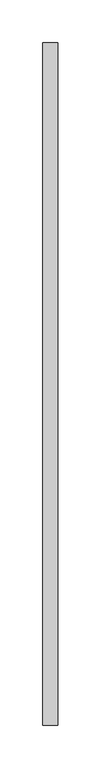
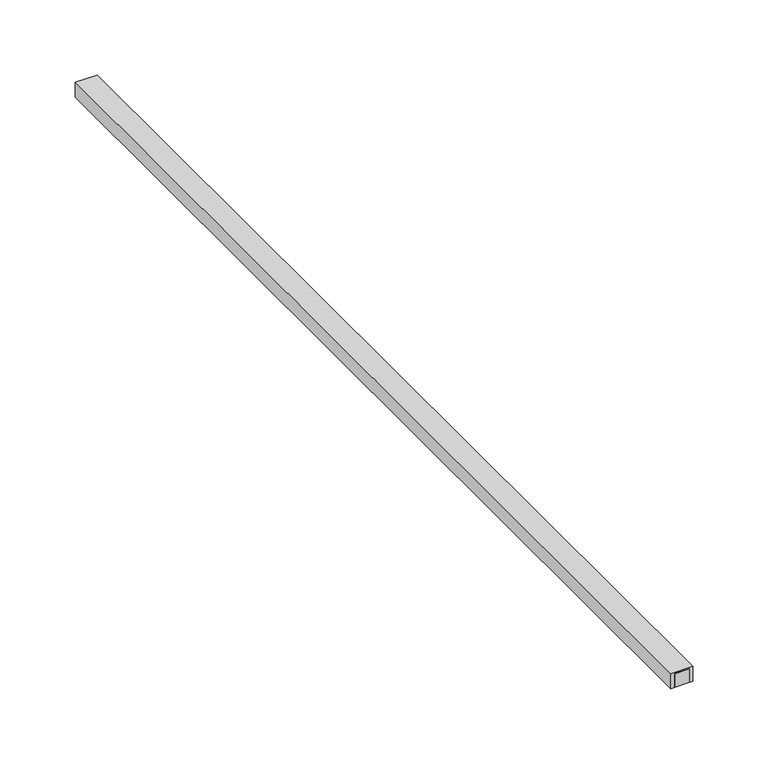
"""IFC4 building model written with IfcOpenShell, lengths in millimetres: proxy geometry, HAFELE^BUS BAR LIGHT_ALUMINUM EXTRUSION-LIGHT BAR (MOD LENGTH 31.25)."""

from ifc_helpers import new_model, si_unit, frame, origin, origin_with_axes, place, context, project, spatial, polyline, outline, extrude, source, transform, mapped, element, save


def generic_models_70161fbd(model_context):
    return source(origin(), model_context, "Body", "SweptSolid", [
        extrude(outline(polyline([(13.9, 755.65), (13.9, 38.1), (3.1, 38.1), (3.1, 755.65), (13.9, 755.65)])), frame((0.0, 0.0, -0.05), z_axis=(0.0, 0.0, 1.0), x_axis=(1.0, 0.0, 0.0)), (0.0, 0.0, 1.0), 1.05),
        extrude(outline(polyline([(14.0, 0.0), (3.0, 0.0), (3.0, 38.1), (14.0, 38.1), (14.0, 0.0)])), origin_with_axes(), (0.0, 0.0, 1.0), 11.0),
        extrude(outline(polyline([(0.0, 13.0), (0.0, 17.0), (12.0, 17.0), (12.0, 0.0), (0.0, 0.0), (0.0, 4.0), (2.0, 4.0), (2.0, 3.0), (11.0, 3.0), (11.0, 14.0), (2.0, 14.0), (2.0, 13.0), (0.0, 13.0)])), frame((0.0, 0.0, 0.0), z_axis=(0.0, 1.0, 0.0), x_axis=(0.0, 0.0, 1.0)), (0.0, 0.0, 1.0), 793.75),
        extrude(outline(polyline([(3.0, 793.75), (14.0, 793.75), (14.0, 755.65), (3.0, 755.65), (3.0, 793.75)])), origin_with_axes(), (0.0, 0.0, 1.0), 11.0),
    ])


if __name__ == "__main__":
    model = new_model("IFC4")
    model_context = context("Model", 3, world=origin())
    ifc_project = project(units=[si_unit("LENGTHUNIT", "METRE", prefix="MILLI")], contexts=[model_context])
    site = spatial("IfcSite", under=ifc_project)
    building = spatial("IfcBuilding", under=site)
    placement = place(None, origin())
    generic_models_shape = generic_models_70161fbd(model_context)
    element("IfcBuildingElementProxy", 1, Name="HAFELE^BUS BAR LIGHT_ALUMINUM EXTRUSION-LIGHT BAR (MOD LENGTH 31.25)", ObjectType="HAFELE^BUS BAR LIGHT_ALUMINUM EXTRUSION-LIGHT BAR (MOD LENGTH 31.25)", at=placement, inside=building, context=model_context, shape_type="MappedRepresentation", body=[
        mapped(generic_models_shape, transform((0.0, 0.0, 0.0), x_axis=(1.0, 0.0, 0.0), y_axis=(0.0, 1.0, 0.0), z_axis=(0.0, 0.0, 1.0))),
    ])
    save(model, "model.ifc")
